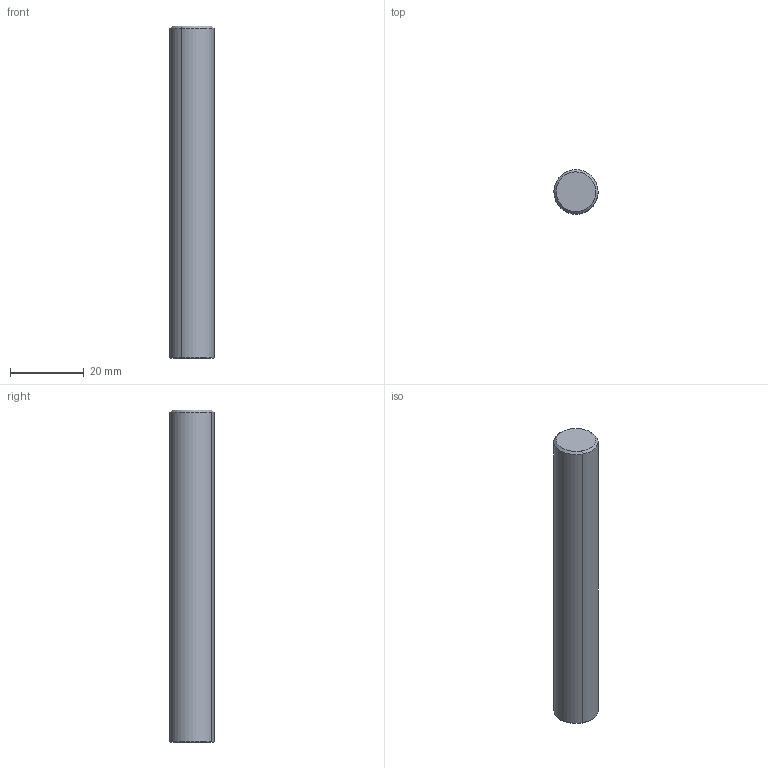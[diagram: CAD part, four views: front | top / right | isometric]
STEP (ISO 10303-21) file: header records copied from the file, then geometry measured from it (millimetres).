
FILE_DESCRIPTION(('CATIA V5 STEP Exchange'),'2;1');
FILE_NAME('I:\isr\design\admin8\users\giries_a\3103201.NEW.stp','2012-03-12T06:13:03+00:00',('none'),('none'),'CATIA Version 5 Release 19 SP 7 (IN-10)','CATIA V5 STEP AP214','none');
FILE_SCHEMA(('AUTOMOTIVE_DESIGN { 1 0 10303 214 1 1 1 1 }'));
Length unit declared in the file: millimetre
Products named in the file (1): 60929476_0 Assembly MM TS-A-L090-C12-T08 
Bounding box: 12 x 12 x 90 mm (x, y, z)
Volume: 10171.7 mm3; surface area: 3602.5 mm2
Topology: 1 solids, 1 shells, 8 faces, 14 edges, 8 vertices
Faces by surface type: plane 2, cone 2, cylinder 2, torus 2
Entity records: 207 total; most frequent: CARTESIAN_POINT 31, DIRECTION 30, ORIENTED_EDGE 28, AXIS2_PLACEMENT_3D 19, EDGE_CURVE 14, CIRCLE 10, ADVANCED_FACE 8, EDGE_LOOP 8
